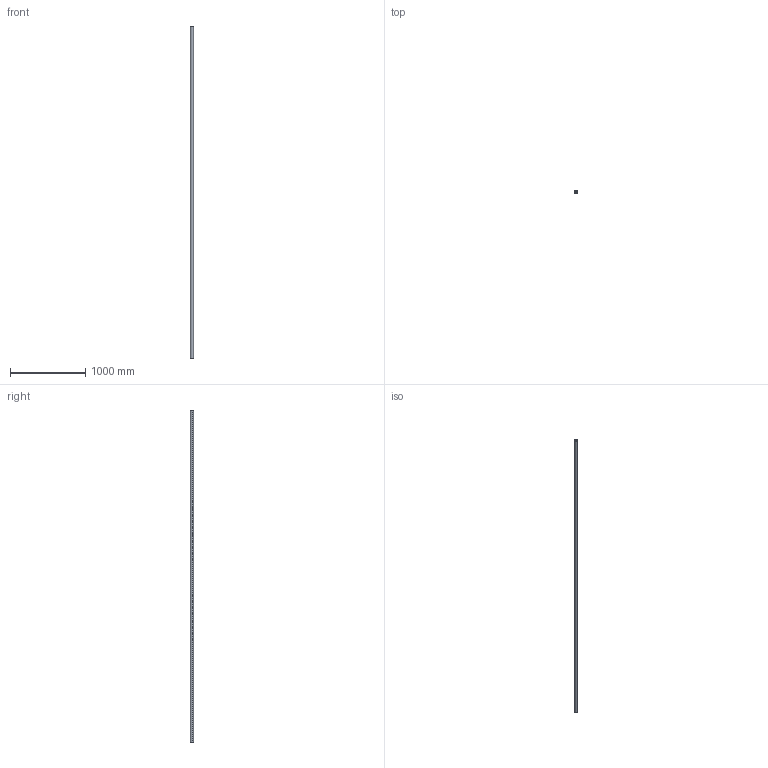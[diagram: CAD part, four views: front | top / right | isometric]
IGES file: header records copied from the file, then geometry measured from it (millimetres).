
Start section: SolidWorks IGES file using analytic representation for surfaces
Global section: file name: C:\Users\IanO\Desktop\L1771_v2\L1771.40_v2\L1771.40_v2_20230705_IGES\L1771.40-4400.igs; native system: SolidWorks 2019; preprocessor: SolidWorks 2019; author: IanO; date: 230705.162506; units: millimetre
Bounding box: 40 x 40 x 4400 mm (x, y, z)
Surface area: 941246.3 mm2 (no closed solid volume)
Topology: 0 solids, 0 shells, 6 faces, 272 edges, 272 vertices
Faces by surface type: revolution 4, bspline 2
